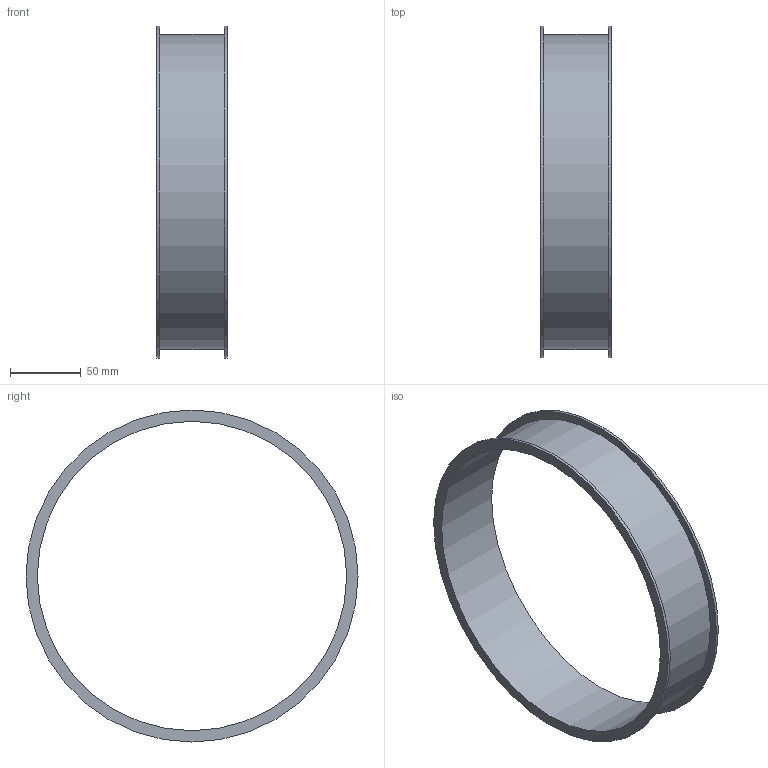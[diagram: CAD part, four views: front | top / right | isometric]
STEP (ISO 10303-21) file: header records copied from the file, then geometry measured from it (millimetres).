
FILE_DESCRIPTION((''),'2;1');
FILE_NAME('U:\Wolfgang\Marcel-3D\fertig\Kapitel 1\2221005.stp','2010-05-31T11:30:57',('TK2'),(''),'Autodesk Inventor 2010','Autodesk Inventor 2010','');
FILE_SCHEMA(('AUTOMOTIVE_DESIGN { 1 0 10303 214 1 1 1 1 }'));
Length unit declared in the file: millimetre
Products named in the file (1): 2221005
Bounding box: 50 x 235 x 235 mm (x, y, z)
Volume: 86695.4 mm3; surface area: 89623.4 mm2
Topology: 1 solids, 1 shells, 8 faces, 12 edges, 8 vertices
Faces by surface type: cylinder 4, plane 4
Full cylindrical faces by diameter (mm): 219 x1, 223 x1, 235 x2
Entity records: 194 total; most frequent: DIRECTION 34, CARTESIAN_POINT 25, AXIS2_PLACEMENT_3D 17, ORIENTED_EDGE 16, EDGE_LOOP 16, VERTEX_POINT 8, CIRCLE 8, EDGE_CURVE 8
